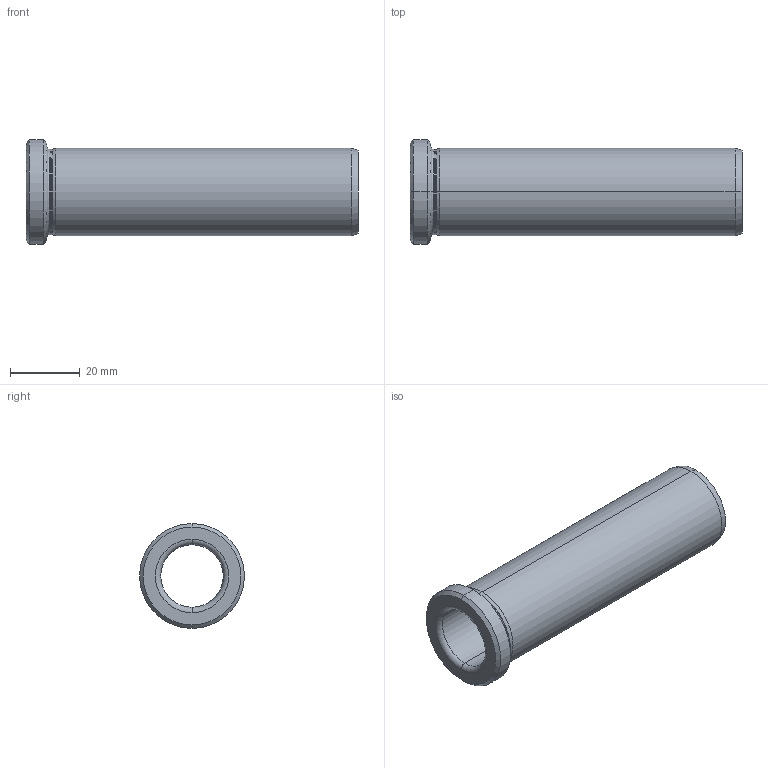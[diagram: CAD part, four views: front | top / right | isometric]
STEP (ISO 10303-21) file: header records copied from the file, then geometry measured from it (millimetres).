
FILE_DESCRIPTION (( 'STEP AP214' ), '1' );
FILE_NAME ('BRCVBG-18X95.STEP', '2020-07-21T12:12:51', ( '' ), ( '' ), 'SwSTEP 2.0', 'SolidWorks 2018', '' );
FILE_SCHEMA (( 'AUTOMOTIVE_DESIGN' ));
Length unit declared in the file: millimetre
Products named in the file (1): BRCVBG-18X95
Bounding box: 95 x 30 x 30 mm (x, y, z)
Volume: 23739.6 mm3; surface area: 13628.4 mm2
Topology: 1 solids, 1 shells, 30 faces, 60 edges, 34 vertices
Faces by surface type: cylinder 10, torus 8, cone 8, plane 4
Entity records: 820 total; most frequent: DIRECTION 164, CARTESIAN_POINT 125, ORIENTED_EDGE 120, AXIS2_PLACEMENT_3D 73, EDGE_CURVE 60, CIRCLE 42, VERTEX_POINT 34, EDGE_LOOP 34
